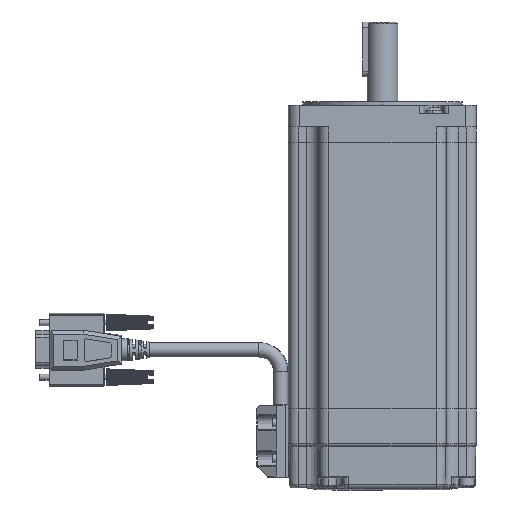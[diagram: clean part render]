
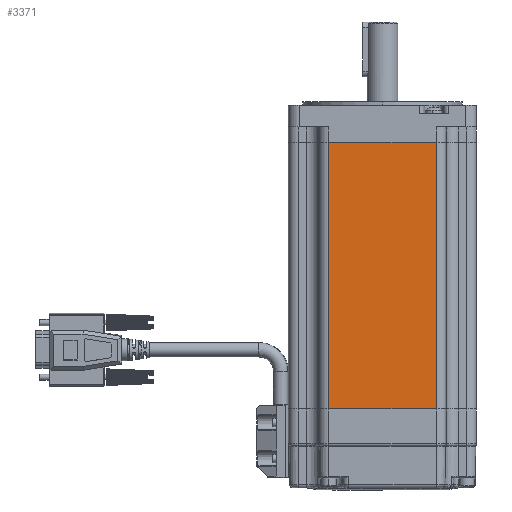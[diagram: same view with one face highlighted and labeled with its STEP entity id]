
A CAD part, left-side view. The second image highlights one B-rep face of the part: STEP entity #3371.
In plain terms, the highlighted planar face has unit normal (-1, 0, 0).
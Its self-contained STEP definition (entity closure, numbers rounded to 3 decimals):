
#826 = VECTOR ( 'NONE', #13017, 1000. ) ;
#1254 = LINE ( 'NONE', #37530, #826 ) ;
#2792 = CARTESIAN_POINT ( 'NONE',  ( -43., 24.65, 122. ) ) ;
#3371 = ADVANCED_FACE ( 'NONE', ( #4909 ), #21149, .F. ) ;
#3946 = DIRECTION ( 'NONE',  ( 0., 0., -1. ) ) ;
#4037 = VERTEX_POINT ( 'NONE', #34118 ) ;
#4097 = LINE ( 'NONE', #25251, #35753 ) ;
#4471 = DIRECTION ( 'NONE',  ( 0., 0., -1. ) ) ;
#4909 = FACE_OUTER_BOUND ( 'NONE', #22149, .T. ) ;
#5875 = DIRECTION ( 'NONE',  ( 0., 0., -1. ) ) ;
#6245 = ORIENTED_EDGE ( 'NONE', *, *, #32778, .F. ) ;
#7181 = VECTOR ( 'NONE', #4471, 1000. ) ;
#8996 = CARTESIAN_POINT ( 'NONE',  ( -43., 24.65, 122. ) ) ;
#9381 = EDGE_CURVE ( 'NONE', #16424, #27647, #1254, .T. ) ;
#13017 = DIRECTION ( 'NONE',  ( 0., -1., 0. ) ) ;
#16424 = VERTEX_POINT ( 'NONE', #25246 ) ;
#17428 = ORIENTED_EDGE ( 'NONE', *, *, #29830, .T. ) ;
#18421 = EDGE_CURVE ( 'NONE', #4037, #39270, #29467, .T. ) ;
#21149 = PLANE ( 'NONE',  #32924 ) ;
#21284 = VECTOR ( 'NONE', #36585, 1000. ) ;
#22149 = EDGE_LOOP ( 'NONE', ( #34927, #6245, #37653, #17428 ) ) ;
#24237 = DIRECTION ( 'NONE',  ( 1., 0., 0. ) ) ;
#25246 = CARTESIAN_POINT ( 'NONE',  ( -43., 24.65, 0. ) ) ;
#25251 = CARTESIAN_POINT ( 'NONE',  ( -43., -24.65, 122. ) ) ;
#25911 = CARTESIAN_POINT ( 'NONE',  ( -43., 24.65, 122. ) ) ;
#27647 = VERTEX_POINT ( 'NONE', #38687 ) ;
#29467 = LINE ( 'NONE', #8996, #21284 ) ;
#29830 = EDGE_CURVE ( 'NONE', #4037, #16424, #38862, .T. ) ;
#29909 = CARTESIAN_POINT ( 'NONE',  ( -43., -24.65, 122. ) ) ;
#32778 = EDGE_CURVE ( 'NONE', #39270, #27647, #4097, .T. ) ;
#32924 = AXIS2_PLACEMENT_3D ( 'NONE', #2792, #24237, #5875 ) ;
#34118 = CARTESIAN_POINT ( 'NONE',  ( -43., 24.65, 122. ) ) ;
#34927 = ORIENTED_EDGE ( 'NONE', *, *, #9381, .T. ) ;
#35753 = VECTOR ( 'NONE', #3946, 1000. ) ;
#36585 = DIRECTION ( 'NONE',  ( 0., -1., 0. ) ) ;
#37530 = CARTESIAN_POINT ( 'NONE',  ( -43., 24.65, 0. ) ) ;
#37653 = ORIENTED_EDGE ( 'NONE', *, *, #18421, .F. ) ;
#38687 = CARTESIAN_POINT ( 'NONE',  ( -43., -24.65, 0. ) ) ;
#38862 = LINE ( 'NONE', #25911, #7181 ) ;
#39270 = VERTEX_POINT ( 'NONE', #29909 ) ;
